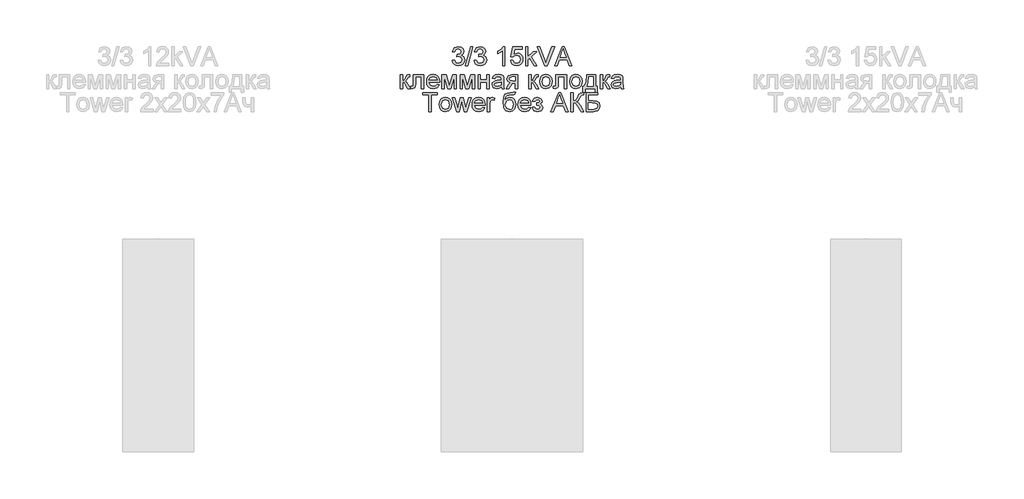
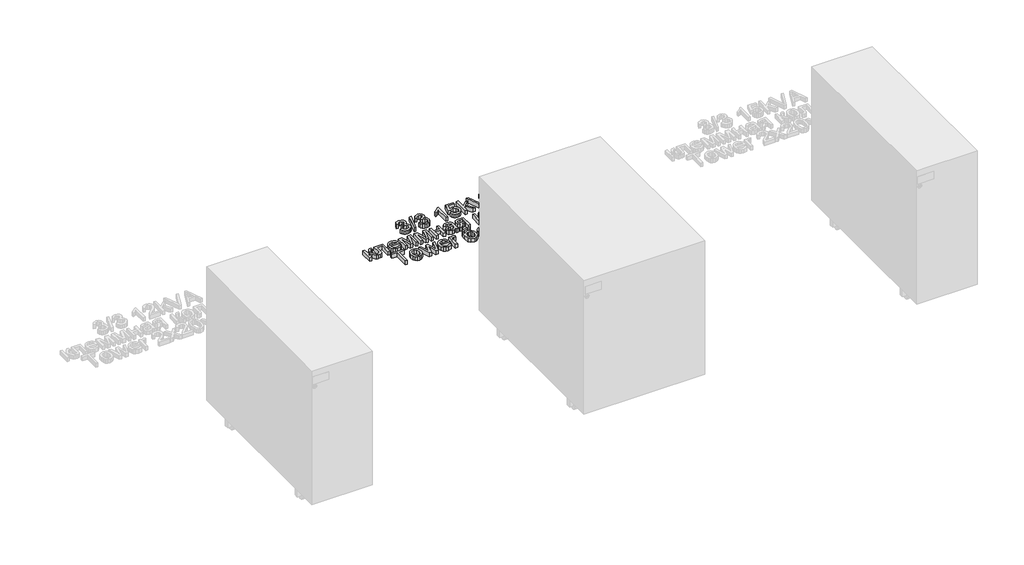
# One storey, part 27 of 74: 1 proxy.
"""IFC4 building model written with IfcOpenShell, lengths in millimetres."""

from ifc_helpers import new_model, si_unit, origin, origin_with_axes, place, context, project, spatial, polyline, outline, extrude, element, save

model = new_model("IFC4")

# Units and contexts
model_context = context("Model", 3, world=origin())
ifc_project = project(units=[si_unit("LENGTHUNIT", "METRE", prefix="MILLI")], contexts=[model_context])

# Site, building, storey
site = spatial("IfcSite", under=ifc_project)
building = spatial("IfcBuilding", under=site)
storey = spatial("IfcBuildingStorey", under=building, Name="Этаж 01", Elevation=0.0)

# Proxy
placement = place(None, origin())
element("IfcBuildingElementProxy", 1, Name="80 мм Arial", ObjectType="80 мм Arial", at=placement, inside=storey, context=model_context, shape_type="SweptSolid", body=[
    extrude(outline(polyline([(13098.3137414, -18752.4422861), (13108.3593724, -18751.1865822), (13113.9021278, -18761.7619633), (13124.2714949, -18764.9993249), (13136.475367, -18760.5455002), (13141.0076732, -18749.5188505), (13136.5146077, -18739.129863), (13125.0955506, -18735.0193948), (13118.0518367, -18736.1181357), (13119.1701979, -18726.0725047), (13120.7790685, -18726.1902269), (13132.1785053, -18723.3060321), (13137.2405615, -18714.4376235), (13133.5715518, -18706.5796641), (13124.114532, -18703.4698349), (13114.5397899, -18706.6090946), (13109.6150762, -18716.0268737), (13099.5694452, -18714.7711698), (13107.7903816, -18699.0160102), (13123.7613652, -18693.4242039), (13135.8769456, -18696.1808663), (13144.3529468, -18703.7150896), (13147.2861926, -18713.8490123), (13144.5000996, -18723.1098284), (13136.2595429, -18729.7611348), (13147.2077111, -18736.6282654), (13151.0533042, -18749.6954339), (13149.1305076, -18759.4860001), (13143.3621179, -18767.6676956), (13134.6555774, -18773.2006408), (13123.9183282, -18775.0449559), (13114.2062435, -18773.470421), (13106.2992332, -18768.7468161), (13100.8006236, -18761.5216138), (13098.3137414, -18752.4422861)])), origin_with_axes(), (0.0, 0.0, 1.0), 20.0),
    extrude(outline(polyline([(13154.8204158, -18773.789252), (13177.4230856, -18693.4242039), (13186.487698, -18693.4242039), (13163.8850282, -18773.789252), (13154.8204158, -18773.789252)])), origin_with_axes(), (0.0, 0.0, 1.0), 20.0),
    extrude(outline(polyline([(13191.2358282, -18752.4422861), (13201.2814593, -18751.1865822), (13206.8242147, -18761.7619633), (13217.1935818, -18764.9993249), (13229.3974539, -18760.5455002), (13233.9297601, -18749.5188505), (13229.4366946, -18739.129863), (13218.0176375, -18735.0193948), (13210.9739236, -18736.1181357), (13212.0922848, -18726.0725047), (13213.7011554, -18726.1902269), (13225.1005922, -18723.3060321), (13230.1626484, -18714.4376235), (13226.4936387, -18706.5796641), (13217.0366188, -18703.4698349), (13207.4618768, -18706.6090946), (13202.5371631, -18716.0268737), (13192.4915321, -18714.7711698), (13200.7124684, -18699.0160102), (13216.6834521, -18693.4242039), (13228.7990325, -18696.1808663), (13237.2750337, -18703.7150896), (13240.2082794, -18713.8490123), (13237.4221865, -18723.1098284), (13229.1816298, -18729.7611348), (13240.129798, -18736.6282654), (13243.9753911, -18749.6954339), (13242.0525945, -18759.4860001), (13236.2842048, -18767.6676956), (13227.5776643, -18773.2006408), (13216.8404151, -18775.0449559), (13207.1283304, -18773.470421), (13199.2213201, -18768.7468161), (13193.7227105, -18761.5216138), (13191.2358282, -18752.4422861)])), origin_with_axes(), (0.0, 0.0, 1.0), 20.0),
    extrude(outline(polyline([(13321.8290314, -18773.789252), (13311.7834004, -18773.789252), (13311.7834004, -18711.1610212), (13302.2675195, -18717.9398601), (13291.6921384, -18723.0117265), (13291.6921384, -18713.5154659), (13306.4172284, -18704.1173072), (13315.3543083, -18693.4242039), (13321.8290314, -18693.4242039), (13321.8290314, -18773.789252)])), origin_with_axes(), (0.0, 0.0, 1.0), 20.0),
    extrude(outline(polyline([(13345.6874051, -18752.4422861), (13355.7330361, -18751.1865822), (13360.7950924, -18761.536329), (13371.291992, -18764.9993249), (13383.8882715, -18760.1825233), (13388.3813369, -18747.3998502), (13384.1727669, -18735.4706634), (13371.4489549, -18731.0953202), (13362.6295973, -18732.8415334), (13356.98874, -18737.3738396), (13346.943109, -18736.1181357), (13355.7330361, -18694.6799078), (13394.6598563, -18694.6799078), (13394.6598563, -18704.7255388), (13363.8558706, -18704.7255388), (13359.5590089, -18726.8573196), (13374.2546683, -18721.0496892), (13383.6405643, -18722.8498584), (13391.4323049, -18728.2503661), (13396.6783022, -18736.4811126), (13398.4269679, -18746.7719983), (13396.852433, -18756.8176293), (13392.1288282, -18765.4113527), (13383.0838362, -18772.6365551), (13371.2527512, -18775.0449559), (13361.3861561, -18773.497399), (13353.5257441, -18768.8547282), (13348.1374992, -18761.6565038), (13345.6874051, -18752.4422861)])), origin_with_axes(), (0.0, 0.0, 1.0), 20.0),
    extrude(outline(polyline([(13409.7283028, -18773.789252), (13409.7283028, -18693.4242039), (13419.7739338, -18693.4242039), (13419.7739338, -18736.608645), (13442.2981221, -18714.7711698), (13456.1893463, -18714.7711698), (13433.3904728, -18736.8833303), (13457.4450501, -18773.789252), (13445.712067, -18773.789252), (13426.1897958, -18743.8681831), (13419.7739338, -18750.0878413), (13419.7739338, -18773.789252), (13409.7283028, -18773.789252)])), origin_with_axes(), (0.0, 0.0, 1.0), 20.0),
    extrude(outline(polyline([(13532.2182919, -18773.789252), (13564.2976019, -18693.4242039), (13572.8520846, -18693.4242039), (13604.9313946, -18773.789252), (13594.3167727, -18773.789252), (13585.1148177, -18748.6751745), (13552.0152484, -18748.6751745), (13542.8329138, -18773.789252), (13532.2182919, -18773.789252)]), holes=[polyline([(13555.7038785, -18738.6295435), (13581.445808, -18738.6295435), (13574.2058903, -18718.8718278), (13568.5748432, -18703.4698349), (13563.5716481, -18717.145235), (13555.7038785, -18738.6295435)])]), origin_with_axes(), (0.0, 0.0, 1.0), 20.0),
    extrude(outline(polyline([(13491.2313326, -18773.789252), (13459.2501245, -18693.4242039), (13470.0020889, -18693.4242039), (13491.4079159, -18751.3239249), (13495.7440184, -18764.3714729), (13500.0212597, -18751.3239249), (13521.4859479, -18693.4242039), (13532.2379123, -18693.4242039), (13501.6105099, -18773.789252), (13491.2313326, -18773.789252)])), origin_with_axes(), (0.0, 0.0, 1.0), 20.0),
    extrude(outline(polyline([(12933.1886815, -18812.3510241), (12978.3940211, -18812.3510241), (12978.3940211, -18871.3102452), (12968.3483901, -18871.3102452), (12968.3483901, -18822.3966551), (12943.2343126, -18822.3966551), (12943.2343126, -18850.5518905), (12942.5574097, -18863.5405774), (12938.839349, -18869.0244717), (12930.0494219, -18871.3691063), (12921.8873467, -18870.8589766), (12921.8873467, -18861.3234753), (12926.3804121, -18861.3234753), (12930.9225285, -18860.7054335), (12932.737413, -18858.7433962), (12933.1886815, -18849.9828996), (12933.1886815, -18812.3510241)])), origin_with_axes(), (0.0, 0.0, 1.0), 20.0),
    extrude(outline(polyline([(12879.1934148, -18812.3510241), (12889.2390459, -18812.3510241), (12889.2390459, -18837.4651016), (12895.9688338, -18835.6600273), (12901.4821587, -18825.1435073), (12906.0635158, -18816.0690848), (12910.1053126, -18813.1162186), (12917.4531423, -18812.3510241), (12919.3759389, -18812.3510241), (12919.3759389, -18822.4555162), (12916.6683274, -18822.3966551), (12911.7632341, -18823.4561553), (12908.3100485, -18830.068221), (12904.2584414, -18837.219847), (12898.5783434, -18840.7220836), (12904.9157239, -18844.6314429), (12911.1353822, -18852.8670945), (12921.8873467, -18871.3691063), (12910.4682895, -18871.3691063), (12899.9321492, -18853.259502), (12894.6346485, -18845.5977463), (12889.2390459, -18843.743621), (12889.2390459, -18871.3691063), (12879.1934148, -18871.3691063), (12879.1934148, -18812.3510241)])), origin_with_axes(), (0.0, 0.0, 1.0), 20.0),
    extrude(outline(polyline([(13034.7829733, -18853.789252), (13044.6324006, -18855.0449559), (13035.4206355, -18868.0140225), (13018.2626192, -18872.6248102), (13006.4756801, -18870.6357949), (12997.4061626, -18864.6687489), (12991.6230577, -18855.1111747), (12989.695356, -18842.3505745), (12991.642678, -18829.1607787), (12997.4846441, -18819.2966362), (13006.4315342, -18813.1456492), (13017.6936284, -18811.0953202), (13028.6050084, -18813.1407441), (13037.3238116, -18819.2770158), (13043.0406979, -18829.121538), (13044.9463266, -18842.2917134), (13044.8874655, -18844.9993249), (12999.740987, -18844.9993249), (13005.5191869, -18858.046873), (13018.4588229, -18862.5791792), (13028.3082502, -18860.4797992), (13034.7829733, -18853.789252)]), holes=[polyline([(12999.740987, -18834.9536939), (13034.9006956, -18834.9536939), (13030.8785191, -18825.8498408), (13017.6543876, -18821.1409512), (13005.2837424, -18824.8982527), (12999.740987, -18834.9536939)])]), origin_with_axes(), (0.0, 0.0, 1.0), 20.0),
    extrude(outline(polyline([(13054.9919576, -18812.3510241), (13072.2775063, -18812.3510241), (13085.5997396, -18859.5968825), (13099.9618527, -18812.3510241), (13116.5214476, -18812.3510241), (13116.5214476, -18871.3691063), (13106.4758166, -18871.3691063), (13106.4758166, -18823.8485627), (13092.035222, -18871.3691063), (13078.8503313, -18871.3691063), (13065.0375886, -18821.5725994), (13065.0375886, -18871.3691063), (13054.9919576, -18871.3691063), (13054.9919576, -18812.3510241)])), origin_with_axes(), (0.0, 0.0, 1.0), 20.0),
    extrude(outline(polyline([(13131.5898941, -18812.3510241), (13148.8754428, -18812.3510241), (13162.1976761, -18859.5968825), (13176.5597892, -18812.3510241), (13193.1193841, -18812.3510241), (13193.1193841, -18871.3691063), (13183.073753, -18871.3691063), (13183.073753, -18823.8485627), (13168.6331585, -18871.3691063), (13155.4482678, -18871.3691063), (13141.6355251, -18821.5725994), (13141.6355251, -18871.3691063), (13131.5898941, -18871.3691063), (13131.5898941, -18812.3510241)])), origin_with_axes(), (0.0, 0.0, 1.0), 20.0),
    extrude(outline(polyline([(13208.1878306, -18812.3510241), (13218.2334616, -18812.3510241), (13218.2334616, -18834.9536939), (13244.603243, -18834.9536939), (13244.603243, -18812.3510241), (13254.648874, -18812.3510241), (13254.648874, -18871.3691063), (13244.603243, -18871.3691063), (13244.603243, -18844.9993249), (13218.2334616, -18844.9993249), (13218.2334616, -18871.3691063), (13208.1878306, -18871.3691063), (13208.1878306, -18812.3510241)])), origin_with_axes(), (0.0, 0.0, 1.0), 20.0),
    extrude(outline(polyline([(13307.3884369, -18863.834883), (13297.6469216, -18870.6431525), (13286.885147, -18872.6248102), (13272.2973996, -18867.8570595), (13267.2059128, -18855.6728078), (13269.1287094, -18847.7265567), (13274.1809554, -18841.9581671), (13281.2148592, -18838.6619444), (13289.9066844, -18837.1511757), (13307.3295757, -18833.69799), (13307.3884369, -18831.4612675), (13304.6219643, -18824.0447664), (13293.5168331, -18821.1409512), (13283.3534798, -18823.073558), (13278.5072477, -18829.9308784), (13268.4616167, -18828.6751745), (13272.8075293, -18818.864988), (13281.5582157, -18813.1162186), (13294.8117777, -18811.0953202), (13306.9862192, -18812.8807742), (13313.86316, -18817.3640294), (13316.9435585, -18824.1821091), (13317.4340679, -18832.9720362), (13317.4340679, -18845.4702138), (13317.9441976, -18862.9225357), (13319.9454756, -18871.3691063), (13309.8998446, -18871.3691063), (13307.3884369, -18863.834883)]), holes=[polyline([(13307.3884369, -18843.743621), (13291.1820087, -18846.8240196), (13282.5392344, -18848.4525105), (13278.6249699, -18851.1012609), (13277.2515438, -18854.9664744), (13280.2436507, -18860.4013178), (13289.0237677, -18862.5791792), (13299.1871209, -18860.1756835), (13305.7403255, -18854.3582428), (13307.3295757, -18846.5885751), (13307.3884369, -18843.743621)])]), origin_with_axes(), (0.0, 0.0, 1.0), 20.0),
    extrude(outline(polyline([(13376.4521501, -18812.3510241), (13376.4521501, -18871.3691063), (13366.4065191, -18871.3691063), (13366.4065191, -18848.7664365), (13360.932435, -18848.7664365), (13353.4766932, -18850.0417608), (13346.47222, -18858.6158638), (13338.4671078, -18871.3691063), (13326.8518469, -18871.3691063), (13336.9367187, -18855.2411596), (13345.4912014, -18846.8828807), (13333.797459, -18840.7809447), (13329.9911066, -18829.4011283), (13335.1905055, -18817.079534), (13350.2393317, -18812.3510241), (13376.4521501, -18812.3510241)]), holes=[polyline([(13366.4065191, -18822.3966551), (13353.1627672, -18822.3966551), (13342.4402334, -18824.7216693), (13340.0367377, -18830.1663228), (13343.578215, -18836.6508561), (13356.1254436, -18838.7208055), (13366.4065191, -18838.7208055), (13366.4065191, -18822.3966551)])]), origin_with_axes(), (0.0, 0.0, 1.0), 20.0),
    extrude(outline(polyline([(13422.9131935, -18812.3510241), (13432.9588245, -18812.3510241), (13432.9588245, -18837.4651016), (13439.6886125, -18835.6600273), (13445.2019373, -18825.1435073), (13449.7832945, -18816.0690848), (13453.8250913, -18813.1162186), (13461.172921, -18812.3510241), (13463.0957176, -18812.3510241), (13463.0957176, -18822.4555162), (13460.3881061, -18822.3966551), (13455.4830128, -18823.4561553), (13452.0298272, -18830.068221), (13447.9782201, -18837.219847), (13442.2981221, -18840.7220836), (13448.6355026, -18844.6314429), (13454.8551609, -18852.8670945), (13465.6071253, -18871.3691063), (13454.1880682, -18871.3691063), (13443.6519279, -18853.259502), (13438.3544271, -18845.5977463), (13432.9588245, -18843.743621), (13432.9588245, -18871.3691063), (13422.9131935, -18871.3691063), (13422.9131935, -18812.3510241)])), origin_with_axes(), (0.0, 0.0, 1.0), 20.0),
    extrude(outline(polyline([(13469.374237, -18841.8600652), (13471.5471933, -18827.6303896), (13478.0660622, -18817.6289044), (13486.1202254, -18812.7287163), (13495.7636388, -18811.0953202), (13506.3169469, -18813.0843355), (13514.7463497, -18819.0513815), (13520.2719373, -18828.5255691), (13522.1137998, -18841.0360095), (13518.8568179, -18858.9101694), (13509.3703675, -18869.0244717), (13495.7636388, -18872.6248102), (13485.0827982, -18870.6431525), (13476.6632056, -18864.6981795), (13471.1964791, -18855.0253355), (13469.374237, -18841.8600652)]), holes=[polyline([(13479.419868, -18841.8404448), (13484.0698964, -18857.4092109), (13495.7636388, -18862.5791792), (13507.4181404, -18857.3797803), (13512.0681688, -18841.5265189), (13507.3887098, -18826.3109195), (13495.7636388, -18821.1409512), (13484.0698964, -18826.2912992), (13479.419868, -18841.8404448)])]), origin_with_axes(), (0.0, 0.0, 1.0), 20.0),
    extrude(outline(polyline([(13538.4379502, -18812.3510241), (13583.6432898, -18812.3510241), (13583.6432898, -18871.3102452), (13573.5976588, -18871.3102452), (13573.5976588, -18822.3966551), (13548.4835812, -18822.3966551), (13548.4835812, -18850.5518905), (13547.8066783, -18863.5405774), (13544.0886176, -18869.0244717), (13535.2986905, -18871.3691063), (13527.1366153, -18870.8589766), (13527.1366153, -18861.3234753), (13531.6296807, -18861.3234753), (13536.1717971, -18860.7054335), (13537.9866816, -18858.7433962), (13538.4379502, -18849.9828996), (13538.4379502, -18812.3510241)])), origin_with_axes(), (0.0, 0.0, 1.0), 20.0),
    extrude(outline(polyline([(13596.2003285, -18841.8600652), (13598.3732849, -18827.6303896), (13604.8921538, -18817.6289044), (13612.946317, -18812.7287163), (13622.5897303, -18811.0953202), (13633.1430385, -18813.0843355), (13641.5724413, -18819.0513815), (13647.0980288, -18828.5255691), (13648.9398914, -18841.0360095), (13645.6829094, -18858.9101694), (13636.1964591, -18869.0244717), (13622.5897303, -18872.6248102), (13611.9088897, -18870.6431525), (13603.4892971, -18864.6981795), (13598.0225707, -18855.0253355), (13596.2003285, -18841.8600652)]), holes=[polyline([(13606.2459596, -18841.8404448), (13610.895988, -18857.4092109), (13622.5897303, -18862.5791792), (13634.2442319, -18857.3797803), (13638.8942603, -18841.5265189), (13634.2148014, -18826.3109195), (13622.5897303, -18821.1409512), (13610.895988, -18826.2912992), (13606.2459596, -18841.8404448)])]), origin_with_axes(), (0.0, 0.0, 1.0), 20.0),
    extrude(outline(polyline([(13669.0311534, -18812.3510241), (13706.7022697, -18812.3510241), (13706.7022697, -18861.3234753), (13714.236493, -18861.3234753), (13714.236493, -18887.6932567), (13704.1908619, -18887.6932567), (13704.1908619, -18871.3691063), (13662.752634, -18871.3691063), (13662.752634, -18887.6932567), (13652.707003, -18887.6932567), (13652.707003, -18861.3234753), (13658.9855224, -18861.3234753), (13666.7453799, -18842.164181), (13669.0311534, -18812.3510241)]), holes=[polyline([(13677.8210805, -18822.3966551), (13675.4666358, -18845.2838203), (13670.2868573, -18861.3234753), (13696.6566387, -18861.3234753), (13696.6566387, -18822.3966551), (13677.8210805, -18822.3966551)])]), origin_with_axes(), (0.0, 0.0, 1.0), 20.0),
    extrude(outline(polyline([(13725.5378279, -18812.3510241), (13735.5834589, -18812.3510241), (13735.5834589, -18837.4651016), (13742.3132468, -18835.6600273), (13747.8265717, -18825.1435073), (13752.4079288, -18816.0690848), (13756.4497256, -18813.1162186), (13763.7975554, -18812.3510241), (13765.7203519, -18812.3510241), (13765.7203519, -18822.4555162), (13763.0127404, -18822.3966551), (13758.1076472, -18823.4561553), (13754.6544615, -18830.068221), (13750.6028545, -18837.219847), (13744.9227565, -18840.7220836), (13751.260137, -18844.6314429), (13757.4797952, -18852.8670945), (13768.2317597, -18871.3691063), (13756.8127025, -18871.3691063), (13746.2765622, -18853.259502), (13740.9790615, -18845.5977463), (13735.5834589, -18843.743621), (13735.5834589, -18871.3691063), (13725.5378279, -18871.3691063), (13725.5378279, -18812.3510241)])), origin_with_axes(), (0.0, 0.0, 1.0), 20.0),
    extrude(outline(polyline([(13812.1813954, -18863.834883), (13802.4398801, -18870.6431525), (13791.6781055, -18872.6248102), (13777.0903581, -18867.8570595), (13771.9988713, -18855.6728078), (13773.9216679, -18847.7265567), (13778.9739139, -18841.9581671), (13786.0078177, -18838.6619444), (13794.6996429, -18837.1511757), (13812.1225342, -18833.69799), (13812.1813954, -18831.4612675), (13809.4149228, -18824.0447664), (13798.3097916, -18821.1409512), (13788.1464383, -18823.073558), (13783.3002062, -18829.9308784), (13773.2545752, -18828.6751745), (13777.6004878, -18818.864988), (13786.3511742, -18813.1162186), (13799.6047362, -18811.0953202), (13811.7791777, -18812.8807742), (13818.6561185, -18817.3640294), (13821.736517, -18824.1821091), (13822.2270264, -18832.9720362), (13822.2270264, -18845.4702138), (13822.7371561, -18862.9225357), (13824.7384341, -18871.3691063), (13814.6928031, -18871.3691063), (13812.1813954, -18863.834883)]), holes=[polyline([(13812.1813954, -18843.743621), (13795.9749672, -18846.8240196), (13787.3321929, -18848.4525105), (13783.4179284, -18851.1012609), (13782.0445023, -18854.9664744), (13785.0366092, -18860.4013178), (13793.8167262, -18862.5791792), (13803.9800794, -18860.1756835), (13810.533284, -18854.3582428), (13812.1225342, -18846.5885751), (13812.1813954, -18843.743621)])]), origin_with_axes(), (0.0, 0.0, 1.0), 20.0),
    extrude(outline(polyline([(12999.1131351, -18968.9489606), (12999.1131351, -18898.6295435), (12972.7433537, -18898.6295435), (12972.7433537, -18888.5839125), (13035.5285475, -18888.5839125), (13035.5285475, -18898.6295435), (13009.1587661, -18898.6295435), (13009.1587661, -18968.9489606), (12999.1131351, -18968.9489606)])), origin_with_axes(), (0.0, 0.0, 1.0), 20.0),
    extrude(outline(polyline([(13043.0627708, -18939.4399195), (13045.2357271, -18925.2102439), (13051.754596, -18915.2087587), (13059.8087592, -18910.3085705), (13069.4521726, -18908.6751745), (13080.0054807, -18910.6641898), (13088.4348835, -18916.6312358), (13093.9604711, -18926.1054234), (13095.8023336, -18938.6158638), (13092.5453517, -18956.4900237), (13083.0589013, -18966.604326), (13069.4521726, -18970.2046645), (13058.771332, -18968.2230068), (13050.3517394, -18962.2780337), (13044.8850129, -18952.6051898), (13043.0627708, -18939.4399195)]), holes=[polyline([(13053.1084018, -18939.4202991), (13057.7584302, -18954.9890651), (13069.4521726, -18960.1590334), (13081.1066742, -18954.9596346), (13085.7567026, -18939.1063731), (13081.0772436, -18923.8907738), (13069.4521726, -18918.7208055), (13057.7584302, -18923.8711534), (13053.1084018, -18939.4202991)])]), origin_with_axes(), (0.0, 0.0, 1.0), 20.0),
    extrude(outline(polyline([(13116.8942347, -18968.9489606), (13098.9415933, -18909.9308784), (13109.3796318, -18909.9308784), (13119.5626054, -18944.3646331), (13122.6037632, -18956.666607), (13125.0955506, -18944.8159017), (13133.1987647, -18909.9308784), (13145.1671923, -18909.9308784), (13153.2311656, -18944.7177998), (13155.4482678, -18955.4501439), (13158.6267682, -18944.1291886), (13168.8293622, -18909.9308784), (13179.3066414, -18909.9308784), (13161.2166574, -18968.9489606), (13149.0716465, -18968.9489606), (13141.3608399, -18934.3386225), (13139.1241174, -18923.5474173), (13129.1765882, -18968.9489606), (13116.8942347, -18968.9489606)])), origin_with_axes(), (0.0, 0.0, 1.0), 20.0),
    extrude(outline(polyline([(13227.5335184, -18951.3691063), (13237.3829457, -18952.6248102), (13228.1711806, -18965.5938768), (13211.0131643, -18970.2046645), (13199.2262252, -18968.2156491), (13190.1567077, -18962.2486032), (13184.3736028, -18952.6910289), (13182.4459011, -18939.9304288), (13184.3932231, -18926.740633), (13190.2351892, -18916.8764904), (13199.1820793, -18910.7255035), (13210.4441735, -18908.6751745), (13221.3555535, -18910.7205984), (13230.0743567, -18916.8568701), (13235.791243, -18926.7013923), (13237.6968717, -18939.8715677), (13237.6380106, -18942.5791792), (13192.4915321, -18942.5791792), (13198.269732, -18955.6267273), (13211.209368, -18960.1590334), (13221.0587953, -18958.0596535), (13227.5335184, -18951.3691063)]), holes=[polyline([(13192.4915321, -18932.5335481), (13227.6512407, -18932.5335481), (13223.6290642, -18923.429695), (13210.4049327, -18918.7208055), (13198.0342875, -18922.4781069), (13192.4915321, -18932.5335481)])]), origin_with_axes(), (0.0, 0.0, 1.0), 20.0),
    extrude(outline(polyline([(13247.7425027, -18968.9489606), (13247.7425027, -18909.9308784), (13256.5324298, -18909.9308784), (13256.5324298, -18918.6619444), (13262.7717085, -18910.6175914), (13269.0502279, -18908.6751745), (13279.1350996, -18911.7751934), (13275.7800158, -18920.7809447), (13268.7166815, -18918.7208055), (13263.0365835, -18920.7024632), (13259.4166247, -18926.1961676), (13257.7881337, -18937.9291507), (13257.7881337, -18968.9489606), (13247.7425027, -18968.9489606)])), origin_with_axes(), (0.0, 0.0, 1.0), 20.0),
    extrude(outline(polyline([(13358.2444439, -18887.3282086), (13367.034371, -18887.3282086), (13364.4444818, -18895.1665476), (13359.3235644, -18898.0016915), (13347.0215905, -18898.6295435), (13330.4521854, -18900.9447475), (13324.0951845, -18908.3612485), (13321.9467537, -18921.4872781), (13330.6483891, -18911.8732953), (13341.8614324, -18908.6751745), (13352.3141861, -18910.7083356), (13360.7950924, -18916.8078191), (13366.4163293, -18926.3752035), (13368.2900749, -18938.8120675), (13364.5720142, -18956.0976162), (13355.7526565, -18966.5258445), (13341.8614324, -18970.2046645), (13325.9983607, -18965.4663444), (13317.3163456, -18953.3409538), (13314.2948082, -18927.6088345), (13316.2004369, -18908.3342705), (13321.9173231, -18896.5792145), (13331.5877145, -18890.582738), (13345.3538588, -18888.5839125), (13356.5374714, -18888.3582782), (13358.2444439, -18887.3282086)]), holes=[polyline([(13358.2444439, -18938.4981416), (13353.888721, -18924.2635609), (13348.6402712, -18920.1064944), (13341.6063675, -18918.7208055), (13334.2732531, -18920.1849758), (13328.8335046, -18924.5774869), (13324.3404392, -18940.2247344), (13329.3043936, -18955.0283059), (13341.5475064, -18960.1590334), (13348.2821994, -18958.6752427), (13353.6140358, -18954.2238706), (13358.2444439, -18938.4981416)])]), origin_with_axes(), (0.0, 0.0, 1.0), 20.0),
    extrude(outline(polyline([(13422.1676194, -18951.3691063), (13432.0170466, -18952.6248102), (13422.8052815, -18965.5938768), (13405.6472652, -18970.2046645), (13393.8603261, -18968.2156491), (13384.7908086, -18962.2486032), (13379.0077037, -18952.6910289), (13377.080002, -18939.9304288), (13379.027324, -18926.740633), (13384.8692901, -18916.8764904), (13393.8161803, -18910.7255035), (13405.0782744, -18908.6751745), (13415.9896544, -18910.7205984), (13424.7084577, -18916.8568701), (13430.4253439, -18926.7013923), (13432.3309726, -18939.8715677), (13432.2721115, -18942.5791792), (13387.125633, -18942.5791792), (13392.9038329, -18955.6267273), (13405.843469, -18960.1590334), (13415.6928962, -18958.0596535), (13422.1676194, -18951.3691063)]), holes=[polyline([(13387.125633, -18932.5335481), (13422.2853416, -18932.5335481), (13418.2631651, -18923.429695), (13405.0390337, -18918.7208055), (13392.6683884, -18922.4781069), (13387.125633, -18932.5335481)])]), origin_with_axes(), (0.0, 0.0, 1.0), 20.0),
    extrude(outline(polyline([(13456.1893463, -18942.5791792), (13456.1893463, -18932.5335481), (13464.115977, -18932.1411407), (13468.1185331, -18930.051571), (13470.0020889, -18925.6860379), (13467.480871, -18920.6141715), (13460.9767173, -18918.7208055), (13454.2567395, -18920.6043613), (13449.9108269, -18926.2550288), (13438.609492, -18924.9993249), (13446.1633356, -18912.7562121), (13459.9564579, -18908.6751745), (13474.7109784, -18913.6489391), (13480.0477199, -18925.529075), (13478.1494488, -18931.7683536), (13472.4546355, -18936.5949654), (13479.0961318, -18942.8538644), (13481.3034238, -18951.8596156), (13479.9030197, -18959.2540437), (13475.7018073, -18965.1131776), (13460.0349394, -18970.2046645), (13444.5838956, -18965.4957749), (13437.3537881, -18951.3691063), (13448.655123, -18950.1134024), (13453.1874292, -18957.5299034), (13460.9963377, -18960.1590334), (13468.3343572, -18957.6378155), (13471.2577928, -18951.1925229), (13469.4429083, -18945.9146426), (13465.5776948, -18943.0893089), (13458.1513836, -18942.520318), (13456.1893463, -18942.5791792)])), origin_with_axes(), (0.0, 0.0, 1.0), 20.0),
    extrude(outline(polyline([(13517.1498454, -18968.9489606), (13549.2291554, -18888.5839125), (13557.7836381, -18888.5839125), (13589.862948, -18968.9489606), (13579.2483262, -18968.9489606), (13570.0463712, -18943.834883), (13536.9468018, -18943.834883), (13527.7644672, -18968.9489606), (13517.1498454, -18968.9489606)]), holes=[polyline([(13540.635432, -18933.789252), (13566.3773615, -18933.789252), (13559.1374438, -18914.0315363), (13553.5063967, -18898.6295435), (13548.5032016, -18912.3049435), (13540.635432, -18933.789252)])]), origin_with_axes(), (0.0, 0.0, 1.0), 20.0),
    extrude(outline(polyline([(13600.5952921, -18888.5839125), (13610.6409231, -18888.5839125), (13610.6409231, -18923.743621), (13621.8735867, -18921.0850605), (13629.7119257, -18907.6352947), (13635.2546811, -18896.4026311), (13641.5332005, -18890.8402554), (13650.5095212, -18888.5839125), (13657.1019666, -18888.7016347), (13657.1019666, -18898.7472657), (13654.8848644, -18898.6884046), (13652.6677622, -18898.6295435), (13644.819613, -18901.0428494), (13638.8550196, -18911.382786), (13631.7426344, -18923.9790655), (13624.8068325, -18928.1385846), (13632.5617849, -18932.6807009), (13640.2088253, -18942.147531), (13657.1019666, -18968.9489606), (13645.447465, -18968.9489606), (13631.1638334, -18946.30705), (13621.1083922, -18934.4857753), (13610.6409231, -18931.2778443), (13610.6409231, -18968.9489606), (13600.5952921, -18968.9489606), (13600.5952921, -18888.5839125)])), origin_with_axes(), (0.0, 0.0, 1.0), 20.0),
    extrude(outline(polyline([(13665.8918937, -18888.5839125), (13716.1200488, -18888.5839125), (13716.1200488, -18898.6295435), (13675.9375247, -18898.6295435), (13675.9375247, -18922.4879171), (13694.7534625, -18922.4879171), (13711.3326777, -18924.5284359), (13721.2017254, -18932.2392426), (13724.9099759, -18945.4241333), (13722.2710357, -18956.8726209), (13714.3934559, -18965.5742564), (13696.5585368, -18968.9489606), (13665.8918937, -18968.9489606), (13665.8918937, -18888.5839125)]), holes=[polyline([(13675.9375247, -18958.9033296), (13697.461074, -18958.9033296), (13710.5086221, -18955.5874865), (13714.8643449, -18945.6399574), (13712.3725575, -18937.7721878), (13705.4367556, -18933.5734279), (13690.2996378, -18932.5335481), (13675.9375247, -18932.5335481), (13675.9375247, -18958.9033296)])]), origin_with_axes(), (0.0, 0.0, 1.0), 20.0),
])

save(model, "model.ifc")
